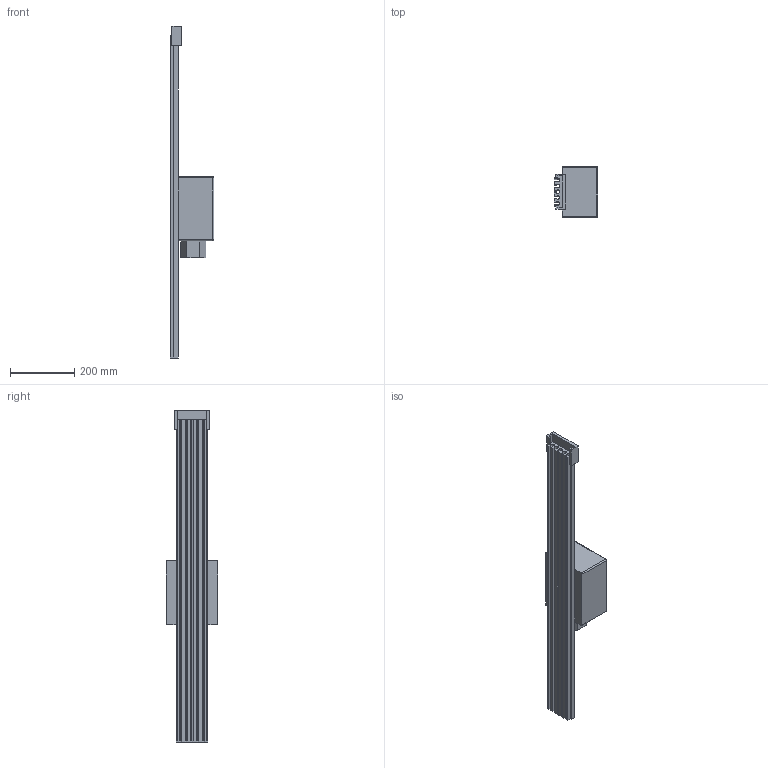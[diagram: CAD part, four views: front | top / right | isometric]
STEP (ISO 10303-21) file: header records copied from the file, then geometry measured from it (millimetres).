
FILE_DESCRIPTION (( 'STEP AP214' ), '1' );
FILE_NAME ('083152-560x12.STEP', '2013-01-17T08:38:55', ( '' ), ( '' ), 'SwSTEP 2.0', 'SolidWorks 2012', '' );
FILE_SCHEMA (( 'AUTOMOTIVE_DESIGN' ));
Length unit declared in the file: millimetre
Products named in the file (1): 083152-560x12
Bounding box: 136 x 160 x 1030 mm (x, y, z)
Volume: 5513284.6 mm3; surface area: 566010 mm2
Topology: 2 solids, 2 shells, 76 faces, 201 edges, 126 vertices
Faces by surface type: plane 54, cylinder 18, sphere 4
Entity records: 2882 total; most frequent: CARTESIAN_POINT 400, ORIENTED_EDGE 394, DIRECTION 387, EDGE_CURVE 197, LINE 161, VECTOR 161, VERTEX_POINT 126, AXIS2_PLACEMENT_3D 113
